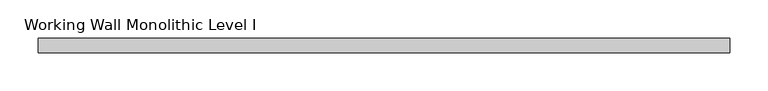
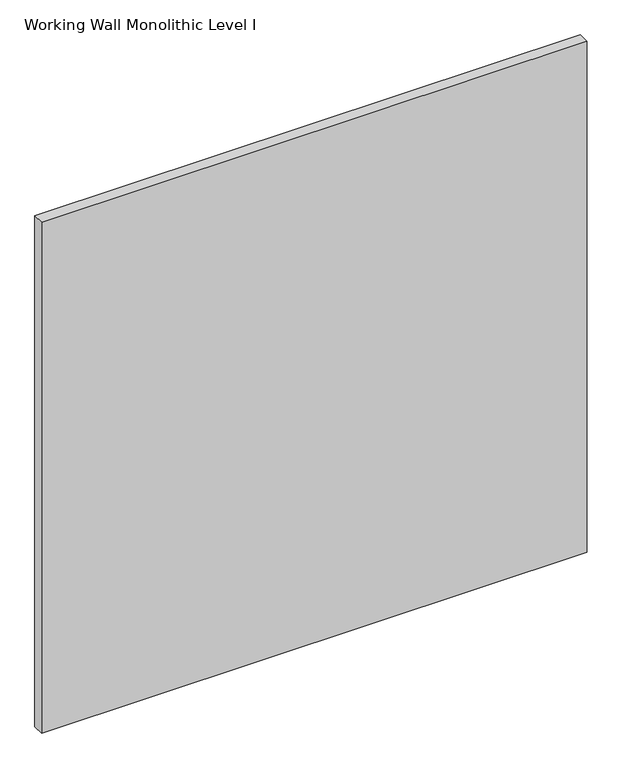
"""IFC4 building model written with IfcOpenShell, lengths in millimetres: proxy geometry, Panel-Fascia-Teknion-Altos-Standard : Working Wall Monolithic Level I."""

from ifc_helpers import new_model, si_unit, frame, origin, place, context, project, spatial, polyline, outline, extrude, source, transform, mapped, element, save


def working_wall_monolithic_level_i_9d4bea93(model_context):
    return source(origin(), model_context, "Body", "SweptSolid", [
        extrude(outline(polyline([(454.0305563, -9.525), (-454.0305562, -9.525), (-454.0305562, 9.525), (454.0305563, 9.525), (454.0305563, -9.525)])), frame((0.0, 0.0, 3.175), z_axis=(0.0, 0.0, 1.0), x_axis=(1.0, 0.0, 0.0)), (0.0, 0.0, 1.0), 898.525),
    ])


if __name__ == "__main__":
    model = new_model("IFC4")
    model_context = context("Model", 3, world=origin())
    ifc_project = project(units=[si_unit("LENGTHUNIT", "METRE", prefix="MILLI")], contexts=[model_context])
    site = spatial("IfcSite", under=ifc_project)
    building = spatial("IfcBuilding", under=site)
    placement = place(None, origin())
    working_wall_monolithic_level_i_shape = working_wall_monolithic_level_i_9d4bea93(model_context)
    element("IfcBuildingElementProxy", 1, Name="Panel-Fascia-Teknion-Altos-Standard : Working Wall Monolithic Level I", ObjectType="Panel-Fascia-Teknion-Altos-Standard : Working Wall Monolithic Level I", at=placement, inside=building, context=model_context, shape_type="MappedRepresentation", body=[
        mapped(working_wall_monolithic_level_i_shape, transform((0.0, 0.0, 0.0), x_axis=(1.0, 0.0, 0.0), y_axis=(0.0, 1.0, 0.0), z_axis=(0.0, 0.0, 1.0))),
    ])
    save(model, "model.ifc")
